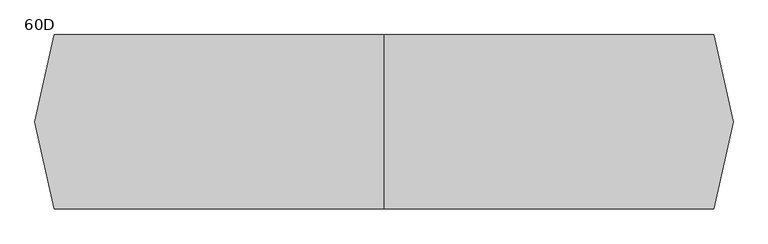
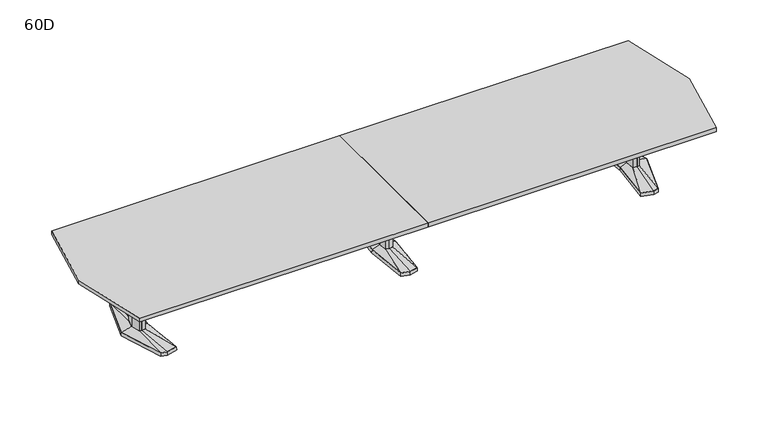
"""IFC4 building model written with IfcOpenShell, lengths in millimetres: furniture geometry, Coalesse_AM_Table_Conference_ETable2_Faceted_20ft_AluminiumBase : 60D."""

from ifc_helpers import new_model, si_unit, frame, origin, place, context, project, spatial, polyline, outline, extrude, faceted_brep, source, transform, mapped, element, save
from ifc_brep_helpers import plane_surface, spline_surface, advanced_brep


def furniture_60d_2c266338(model_context):
    return source(origin(), model_context, "Body", "SolidModel", [
        faceted_brep([(-81.2333791, -433.8053819, 38.1), (0.0, -455.556576, 38.1), (81.2333791, -433.8053819, 38.1), (119.0564774, 0.0, 38.1), (81.2333791, 433.8053819, 38.1), (0.0, 455.556576, 38.1), (-81.2333791, 433.8053819, 38.1), (-119.0564774, 0.0, 38.1), (-82.7182795, -435.0512063, 3.175), (-120.65, 0.0, 3.175), (-82.7182795, 435.0512063, 3.175), (0.0, 457.2, 3.175), (82.7182795, 435.0512063, 3.175), (120.65, 0.0, 3.175), (82.7182795, -435.0512063, 3.175), (0.0, -457.2, 3.175), (0.0, 429.2617927, 3.175), (-77.9676806, 408.3850278, 3.175), (-74.7019821, 382.9646737, 3.175), (0.0, 402.9670094, 3.175), (74.7019821, 382.9646737, 3.175), (77.9676806, 408.3850278, 3.175), (0.0, -429.2617927, 3.175), (77.9676806, -408.3850278, 3.175), (74.7019821, -382.9646737, 3.175), (0.0, -402.9670094, 3.175), (-74.7019821, -382.9646737, 3.175), (-77.9676806, -408.3850278, 3.175), (-71.8574262, 114.6326257, 3.175), (-82.5426076, 0.0, 3.175), (-71.8574262, -114.6326257, 3.175), (0.0, -133.8761372, 3.175), (71.8574262, -114.6326257, 3.175), (82.5426076, 0.0, 3.175), (71.8574262, 114.6326257, 3.175), (0.0, 133.8761372, 3.175), (0.0, 429.2617927, 0.0), (77.9676806, 408.3850278, 0.0), (74.7019821, 382.9646737, 0.0), (0.0, 402.9670094, 0.0), (-74.7019821, 382.9646737, 0.0), (-77.9676806, 408.3850278, 0.0), (0.0, -429.2617927, 0.0), (-77.9676806, -408.3850278, 0.0), (-74.7019821, -382.9646737, 0.0), (0.0, -402.9670094, 0.0), (74.7019821, -382.9646737, 0.0), (77.9676806, -408.3850278, 0.0), (-71.8574262, 114.6326257, 0.0), (0.0, 133.8761372, 0.0), (71.8574262, 114.6326257, 0.0), (82.5426076, 0.0, 0.0), (71.8574262, -114.6326257, 0.0), (0.0, -133.8761372, 0.0), (-71.8574262, -114.6326257, 0.0), (-82.5426076, 0.0, 0.0)], [[[0, 1, 2, 3, 4, 5, 6, 7]], [[8, 9, 10, 11, 12, 13, 14, 15], [16, 17, 18, 19, 20, 21], [22, 23, 24, 25, 26, 27], [28, 29, 30, 31, 32, 33, 34, 35]], [[1, 0, 8, 15]], [[2, 1, 15, 14]], [[3, 2, 14, 13]], [[4, 3, 13, 12]], [[5, 4, 12, 11]], [[6, 5, 11, 10]], [[7, 6, 10, 9]], [[0, 7, 9, 8]], [[36, 37, 38, 39, 40, 41]], [[42, 43, 44, 45, 46, 47]], [[48, 49, 50, 51, 52, 53, 54, 55]], [[36, 41, 17, 16]], [[41, 40, 18, 17]], [[40, 39, 19, 18]], [[39, 38, 20, 19]], [[38, 37, 21, 20]], [[37, 36, 16, 21]], [[42, 47, 23, 22]], [[47, 46, 24, 23]], [[46, 45, 25, 24]], [[45, 44, 26, 25]], [[44, 43, 27, 26]], [[43, 42, 22, 27]], [[48, 55, 29, 28]], [[55, 54, 30, 29]], [[54, 53, 31, 30]], [[53, 52, 32, 31]], [[52, 51, 33, 32]], [[51, 50, 34, 33]], [[50, 49, 35, 34]], [[49, 48, 28, 35]]]),
        faceted_brep([(-36.3832834, 84.6900825, 698.5), (-44.2774487, 0.0, 698.5), (-36.3832834, -84.6900825, 698.5), (0.0, -94.4335728, 698.5), (36.3832834, -84.6900825, 698.5), (44.2774487, 0.0, 698.5), (36.3832834, 84.6900825, 698.5), (0.0, 94.4335728, 698.5), (-36.3832834, 84.6900825, 63.5), (0.0, 94.4335728, 63.5), (36.3832834, 84.6900825, 63.5), (44.2774487, 0.0, 63.5), (36.3832834, -84.6900825, 63.5), (0.0, -94.4335728, 63.5), (-36.3832834, -84.6900825, 63.5), (-44.2774487, 0.0, 63.5)], [[[0, 1, 2, 3, 4, 5, 6, 7]], [[8, 9, 10, 11, 12, 13, 14, 15]], [[1, 0, 8, 15]], [[2, 1, 15, 14]], [[3, 2, 14, 13]], [[4, 3, 13, 12]], [[5, 4, 12, 11]], [[6, 5, 11, 10]], [[7, 6, 10, 9]], [[0, 7, 9, 8]]]),
        advanced_brep(
        [(-36.3832834, 84.6900825, 63.5), (-44.2774487, 0.0, 63.5), (-36.3832834, -84.6900825, 63.5), (0.0, -94.4335728, 63.5), (36.3832834, -84.6900825, 63.5), (44.2774487, 0.0, 63.5), (36.3832834, 84.6900825, 63.5), (0.0, 94.4335728, 63.5), (-81.2333791, 433.8053819, 38.1), (0.0, 455.556576, 38.1), (81.2333791, 433.8053819, 38.1), (119.0564774, 0.0, 38.1), (81.2333791, -433.8053819, 38.1), (0.0, -455.556576, 38.1), (-81.2333791, -433.8053819, 38.1), (-119.0564774, 0.0, 38.1)],
        [
            (0, 1),
            (1, 2),
            (2, 3),
            (3, 4),
            (4, 5),
            (5, 6),
            (6, 7),
            (7, 0),
            (8, 9),
            (9, 10),
            (10, 11),
            (11, 12),
            (12, 13),
            (13, 14),
            (14, 15),
            (15, 8),
            (15, 1),
            (0, 8),
            (14, 2),
            (13, 3),
            (12, 4),
            (11, 5),
            (10, 6),
            (9, 7),
        ],
        [
            plane_surface(frame((0.0, 0.0, 63.5), z_axis=(0.0, 0.0, 1.0000000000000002), x_axis=(-0.9659615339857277, -0.25868574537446, 0.0))),
            plane_surface(frame((0.0, 0.0, 38.1), z_axis=(0.0, 0.0, -1.0000000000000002), x_axis=(-0.9659615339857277, -0.25868574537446, 0.0))),
            spline_surface(1, 1, [[(-81.2333791, 433.8053819, 38.1), (-36.3832834, 84.6900825, 63.5)], [(-119.0564774, 0.0, 38.1), (-44.2774487, 0.0, 63.5)]], [2, 2], [2, 2], [0.0, 1.0], [0.0, 1.0]),
            spline_surface(1, 1, [[(-119.0564774, 0.0, 38.1), (-44.2774487, 0.0, 63.5)], [(-81.2333791, -433.8053819, 38.1), (-36.3832834, -84.6900825, 63.5)]], [2, 2], [2, 2], [0.0, 1.0], [0.0, 1.0]),
            spline_surface(1, 1, [[(-81.2333791, -433.8053819, 38.1), (-36.3832834, -84.6900825, 63.5)], [(0.0, -455.556576, 38.1), (0.0, -94.4335728, 63.5)]], [2, 2], [2, 2], [0.0, 1.0], [0.0, 1.0]),
            spline_surface(1, 1, [[(0.0, -455.556576, 38.1), (0.0, -94.4335728, 63.5)], [(81.2333791, -433.8053819, 38.1), (36.3832834, -84.6900825, 63.5)]], [2, 2], [2, 2], [0.0, 1.0], [0.0, 1.0]),
            spline_surface(1, 1, [[(81.2333791, -433.8053819, 38.1), (36.3832834, -84.6900825, 63.5)], [(119.0564774, 0.0, 38.1), (44.2774487, 0.0, 63.5)]], [2, 2], [2, 2], [0.0, 1.0], [0.0, 1.0]),
            spline_surface(1, 1, [[(119.0564774, 0.0, 38.1), (44.2774487, 0.0, 63.5)], [(81.2333791, 433.8053819, 38.1), (36.3832834, 84.6900825, 63.5)]], [2, 2], [2, 2], [0.0, 1.0], [0.0, 1.0]),
            spline_surface(1, 1, [[(81.2333791, 433.8053819, 38.1), (36.3832834, 84.6900825, 63.5)], [(0.0, 455.556576, 38.1), (0.0, 94.4335728, 63.5)]], [2, 2], [2, 2], [0.0, 1.0], [0.0, 1.0]),
            spline_surface(1, 1, [[(0.0, 455.556576, 38.1), (0.0, 94.4335728, 63.5)], [(-81.2333791, 433.8053819, 38.1), (-36.3832834, 84.6900825, 63.5)]], [2, 2], [2, 2], [0.0, 1.0], [0.0, 1.0]),
        ],
        [
            (0, [[1, 2, 3, 4, 5, 6, 7, 8]]),
            (1, [[9, 10, 11, 12, 13, 14, 15, 16]]),
            (2, [[-16, 17, -1, 18]]),
            (3, [[-15, 19, -2, -17]]),
            (4, [[-14, 20, -3, -19]]),
            (5, [[-13, 21, -4, -20]]),
            (6, [[-12, 22, -5, -21]]),
            (7, [[-11, 23, -6, -22]]),
            (8, [[-10, 24, -7, -23]]),
            (9, [[-9, -18, -8, -24]]),
        ],
    ),
        faceted_brep([(2429.8306835, 455.5848221, 38.1), (2320.2531277, 426.2263816, 38.1), (2361.4163717, 0.0, 38.1), (2320.2531277, -426.2263816, 38.1), (2429.8306835, -455.5848221, 38.1), (2485.9570396, -440.5478297, 38.1), (2623.2684269, 0.0, 38.1), (2485.9570396, 440.5478297, 38.1), (2429.8306754, 457.2283104, 3.175), (2487.2124472, 441.8549756, 3.175), (2624.93125, 0.0, 3.175), (2487.2124472, -441.8549756, 3.175), (2429.8306754, -457.2283104, 3.175), (2318.54375, -427.4118891, 3.175), (2359.8214856, 0.0, 3.175), (2318.54375, 427.4118891, 3.175), (2433.420115, 428.3273875, 3.175), (2328.3718228, 402.1057253, 3.175), (2336.490518, 377.985069, 3.175), (2437.0095466, 401.0699529, 3.175), (2487.5691725, 387.524361, 3.175), (2486.7631061, 414.0360954, 3.175), (2433.420115, -428.3273875, 3.175), (2486.7631061, -414.0360954, 3.175), (2487.5691725, -387.524361, 3.175), (2437.0095466, -401.0699529, 3.175), (2336.490518, -377.985069, 3.175), (2328.3718228, -402.1057253, 3.175), (2560.0153621, 0.0, 3.175), (2527.7459611, 120.4193755, 3.175), (2479.0987222, 133.471665, 3.175), (2399.2180526, 119.4176561, 3.175), (2388.0868466, 0.0, 3.175), (2399.2180526, -119.4176561, 3.175), (2479.0987222, -133.471665, 3.175), (2527.7459611, -120.4193755, 3.175), (2433.420115, 428.3273875, 0.0), (2486.7631061, 414.0360954, 0.0), (2487.5691725, 387.524361, 0.0), (2437.0095466, 401.0699529, 0.0), (2336.490518, 377.985069, 0.0), (2328.3718228, 402.1057253, 0.0), (2433.420115, -428.3273875, 0.0), (2328.3718228, -402.1057253, 0.0), (2336.490518, -377.985069, 0.0), (2437.0095466, -401.0699529, 0.0), (2487.5691725, -387.524361, 0.0), (2486.7631061, -414.0360954, 0.0), (2560.0153621, 0.0, 0.0), (2527.7459611, -120.4193755, 0.0), (2479.0987222, -133.471665, 0.0), (2399.2180526, -119.4176561, 0.0), (2388.0868466, 0.0, 0.0), (2399.2180526, 119.4176561, 0.0), (2479.0987222, 133.471665, 0.0), (2527.7459611, 120.4193755, 0.0)], [[[0, 1, 2, 3, 4, 5, 6, 7]], [[8, 9, 10, 11, 12, 13, 14, 15], [16, 17, 18, 19, 20, 21], [22, 23, 24, 25, 26, 27], [28, 29, 30, 31, 32, 33, 34, 35]], [[7, 9, 8, 0]], [[6, 10, 9, 7]], [[5, 11, 10, 6]], [[4, 12, 11, 5]], [[3, 13, 12, 4]], [[2, 14, 13, 3]], [[1, 15, 14, 2]], [[0, 8, 15, 1]], [[36, 37, 38, 39, 40, 41]], [[42, 43, 44, 45, 46, 47]], [[48, 49, 50, 51, 52, 53, 54, 55]], [[36, 16, 21, 37]], [[37, 21, 20, 38]], [[38, 20, 19, 39]], [[39, 19, 18, 40]], [[40, 18, 17, 41]], [[41, 17, 16, 36]], [[42, 22, 27, 43]], [[43, 27, 26, 44]], [[44, 26, 25, 45]], [[45, 25, 24, 46]], [[46, 24, 23, 47]], [[47, 23, 22, 42]], [[48, 28, 35, 49]], [[49, 35, 34, 50]], [[50, 34, 33, 51]], [[51, 33, 32, 52]], [[52, 32, 31, 53]], [[53, 31, 30, 54]], [[54, 30, 29, 55]], [[55, 29, 28, 48]]]),
        faceted_brep([(2520.5710836, 0.0, 698.5), (2496.6358546, 89.3188359, 698.5), (2479.7824984, 93.8406728, 698.5), (2477.3826511, 94.4845635, 698.5), (2434.455146, 86.9320037, 698.5), (2426.3520056, 0.0, 698.5), (2434.455146, -86.9320037, 698.5), (2477.3826511, -94.4845635, 698.5), (2479.7824984, -93.8406728, 698.5), (2496.6358546, -89.3188359, 698.5), (2520.5710836, 0.0, 63.5), (2496.6358546, -89.3188359, 63.5), (2479.7824984, -93.8406728, 63.5), (2477.3826511, -94.4845635, 63.5), (2434.455146, -86.9320037, 63.5), (2426.3520056, 0.0, 63.5), (2434.455146, 86.9320037, 63.5), (2477.3826511, 94.4845635, 63.5), (2479.7824984, 93.8406728, 63.5), (2496.6358546, 89.3188359, 63.5)], [[[0, 1, 2, 3, 4, 5, 6, 7, 8, 9]], [[10, 11, 12, 13, 14, 15, 16, 17, 18, 19]], [[9, 11, 10, 0]], [[8, 12, 11, 9]], [[7, 13, 12, 8]], [[6, 14, 13, 7]], [[5, 15, 14, 6]], [[4, 16, 15, 5]], [[3, 17, 16, 4]], [[2, 18, 17, 3]], [[1, 19, 18, 2]], [[0, 10, 19, 1]]]),
        advanced_brep(
        [(2477.3826511, 94.4845635, 63.5), (2434.455146, 86.9320037, 63.5), (2426.3520056, 0.0, 63.5), (2434.455146, -86.9320037, 63.5), (2477.3826511, -94.4845635, 63.5), (2496.6358546, -89.3188359, 63.5), (2520.5710836, 0.0, 63.5), (2496.6358546, 89.3188359, 63.5), (2429.8306835, 455.5848221, 38.1), (2485.9570396, 440.5478297, 38.1), (2623.2684269, 0.0, 38.1), (2485.9570396, -440.5478297, 38.1), (2429.8306835, -455.5848221, 38.1), (2320.2531277, -426.2263816, 38.1), (2361.4163717, 0.0, 38.1), (2320.2531277, 426.2263816, 38.1)],
        [
            (0, 1),
            (1, 2),
            (2, 3),
            (3, 4),
            (4, 5),
            (5, 6),
            (6, 7),
            (7, 0),
            (8, 9),
            (9, 10),
            (10, 11),
            (11, 12),
            (12, 13),
            (13, 14),
            (14, 15),
            (15, 8),
            (8, 0),
            (7, 9),
            (6, 10),
            (5, 11),
            (4, 12),
            (3, 13),
            (2, 14),
            (1, 15),
        ],
        [
            plane_surface(frame((2470.4837991, 0.0, 63.5), z_axis=(0.0, 0.0, 1.0), x_axis=(-0.25884244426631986, -0.9659195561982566, 0.0))),
            plane_surface(frame((2432.0958125, 0.0, 38.1), z_axis=(0.0, 0.0, -1.0), x_axis=(-0.25884244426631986, -0.9659195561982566, 0.0))),
            spline_surface(1, 1, [[(2429.8306835, 455.5848221, 38.1), (2485.9570396, 440.5478297, 38.1)], [(2477.3826511, 94.4845635, 63.5), (2496.6358546, 89.3188359, 63.5)]], [2, 2], [2, 2], [0.0, 1.0], [0.0, 1.0]),
            spline_surface(1, 1, [[(2485.9570396, 440.5478297, 38.1), (2623.2684269, 0.0, 38.1)], [(2496.6358546, 89.3188359, 63.5), (2520.5710836, 0.0, 63.5)]], [2, 2], [2, 2], [0.0, 1.0], [0.0, 1.0]),
            spline_surface(1, 1, [[(2623.2684269, 0.0, 38.1), (2485.9570396, -440.5478297, 38.1)], [(2520.5710836, 0.0, 63.5), (2496.6358546, -89.3188359, 63.5)]], [2, 2], [2, 2], [0.0, 1.0], [0.0, 1.0]),
            spline_surface(1, 1, [[(2485.9570396, -440.5478297, 38.1), (2429.8306835, -455.5848221, 38.1)], [(2496.6358546, -89.3188359, 63.5), (2477.3826511, -94.4845635, 63.5)]], [2, 2], [2, 2], [0.0, 1.0], [0.0, 1.0]),
            spline_surface(1, 1, [[(2429.8306835, -455.5848221, 38.1), (2320.2531277, -426.2263816, 38.1)], [(2477.3826511, -94.4845635, 63.5), (2434.455146, -86.9320037, 63.5)]], [2, 2], [2, 2], [0.0, 1.0], [0.0, 1.0]),
            spline_surface(1, 1, [[(2320.2531277, -426.2263816, 38.1), (2361.4163717, 0.0, 38.1)], [(2434.455146, -86.9320037, 63.5), (2426.3520056, 0.0, 63.5)]], [2, 2], [2, 2], [0.0, 1.0], [0.0, 1.0]),
            spline_surface(1, 1, [[(2361.4163717, 0.0, 38.1), (2320.2531277, 426.2263816, 38.1)], [(2426.3520056, 0.0, 63.5), (2434.455146, 86.9320037, 63.5)]], [2, 2], [2, 2], [0.0, 1.0], [0.0, 1.0]),
            spline_surface(1, 1, [[(2320.2531277, 426.2263816, 38.1), (2429.8306835, 455.5848221, 38.1)], [(2434.455146, 86.9320037, 63.5), (2477.3826511, 94.4845635, 63.5)]], [2, 2], [2, 2], [0.0, 1.0], [0.0, 1.0]),
        ],
        [
            (0, [[1, 2, 3, 4, 5, 6, 7, 8]]),
            (1, [[9, 10, 11, 12, 13, 14, 15, 16]]),
            (2, [[17, -8, 18, -9]]),
            (3, [[-18, -7, 19, -10]]),
            (4, [[-19, -6, 20, -11]]),
            (5, [[-20, -5, 21, -12]]),
            (6, [[-21, -4, 22, -13]]),
            (7, [[-22, -3, 23, -14]]),
            (8, [[-23, -2, 24, -15]]),
            (9, [[-24, -1, -17, -16]]),
        ],
    ),
        faceted_brep([(-2429.8306835, 455.5848221, 38.1), (-2485.9570396, 440.5478297, 38.1), (-2623.2684269, 0.0, 38.1), (-2485.9570396, -440.5478297, 38.1), (-2429.8306835, -455.5848221, 38.1), (-2320.2531277, -426.2263816, 38.1), (-2361.4163717, 0.0, 38.1), (-2320.2531277, 426.2263816, 38.1), (-2429.8306754, 457.2283104, 3.175), (-2318.54375, 427.4118891, 3.175), (-2359.8214856, 0.0, 3.175), (-2318.54375, -427.4118891, 3.175), (-2429.8306754, -457.2283104, 3.175), (-2487.2124472, -441.8549756, 3.175), (-2624.93125, 0.0, 3.175), (-2487.2124472, 441.8549756, 3.175), (-2433.420115, 428.3273875, 3.175), (-2486.7631061, 414.0360954, 3.175), (-2487.5691725, 387.524361, 3.175), (-2437.0095466, 401.0699529, 3.175), (-2336.490518, 377.985069, 3.175), (-2328.3718228, 402.1057253, 3.175), (-2433.420115, -428.3273875, 3.175), (-2328.3718228, -402.1057253, 3.175), (-2336.490518, -377.985069, 3.175), (-2437.0095466, -401.0699529, 3.175), (-2487.5691725, -387.524361, 3.175), (-2486.7631061, -414.0360954, 3.175), (-2560.0153621, 0.0, 3.175), (-2527.7459611, -120.4193755, 3.175), (-2479.0987222, -133.471665, 3.175), (-2399.2180526, -119.4176561, 3.175), (-2388.0868466, 0.0, 3.175), (-2399.2180526, 119.4176561, 3.175), (-2479.0987222, 133.471665, 3.175), (-2527.7459611, 120.4193755, 3.175), (-2433.420115, 428.3273875, 0.0), (-2328.3718228, 402.1057253, 0.0), (-2336.490518, 377.985069, 0.0), (-2437.0095466, 401.0699529, 0.0), (-2487.5691725, 387.524361, 0.0), (-2486.7631061, 414.0360954, 0.0), (-2433.420115, -428.3273875, 0.0), (-2486.7631061, -414.0360954, 0.0), (-2487.5691725, -387.524361, 0.0), (-2437.0095466, -401.0699529, 0.0), (-2336.490518, -377.985069, 0.0), (-2328.3718228, -402.1057253, 0.0), (-2560.0153621, 0.0, 0.0), (-2527.7459611, 120.4193755, 0.0), (-2479.0987222, 133.471665, 0.0), (-2399.2180526, 119.4176561, 0.0), (-2388.0868466, 0.0, 0.0), (-2399.2180526, -119.4176561, 0.0), (-2479.0987222, -133.471665, 0.0), (-2527.7459611, -120.4193755, 0.0)], [[[0, 1, 2, 3, 4, 5, 6, 7]], [[8, 9, 10, 11, 12, 13, 14, 15], [16, 17, 18, 19, 20, 21], [22, 23, 24, 25, 26, 27], [28, 29, 30, 31, 32, 33, 34, 35]], [[1, 0, 8, 15]], [[2, 1, 15, 14]], [[3, 2, 14, 13]], [[4, 3, 13, 12]], [[5, 4, 12, 11]], [[6, 5, 11, 10]], [[7, 6, 10, 9]], [[0, 7, 9, 8]], [[36, 37, 38, 39, 40, 41]], [[42, 43, 44, 45, 46, 47]], [[48, 49, 50, 51, 52, 53, 54, 55]], [[36, 41, 17, 16]], [[41, 40, 18, 17]], [[40, 39, 19, 18]], [[39, 38, 20, 19]], [[38, 37, 21, 20]], [[37, 36, 16, 21]], [[42, 47, 23, 22]], [[47, 46, 24, 23]], [[46, 45, 25, 24]], [[45, 44, 26, 25]], [[44, 43, 27, 26]], [[43, 42, 22, 27]], [[48, 55, 29, 28]], [[55, 54, 30, 29]], [[54, 53, 31, 30]], [[53, 52, 32, 31]], [[52, 51, 33, 32]], [[51, 50, 34, 33]], [[50, 49, 35, 34]], [[49, 48, 28, 35]]]),
        faceted_brep([(-2520.5710836, 0.0, 698.5), (-2496.6358546, -89.3188359, 698.5), (-2479.7824984, -93.8406728, 698.5), (-2477.3826511, -94.4845635, 698.5), (-2434.455146, -86.9320037, 698.5), (-2426.3520056, 0.0, 698.5), (-2434.455146, 86.9320037, 698.5), (-2477.3826511, 94.4845635, 698.5), (-2479.7824984, 93.8406728, 698.5), (-2496.6358546, 89.3188359, 698.5), (-2520.5710836, 0.0, 63.5), (-2496.6358546, 89.3188359, 63.5), (-2479.7824984, 93.8406728, 63.5), (-2477.3826511, 94.4845635, 63.5), (-2434.455146, 86.9320037, 63.5), (-2426.3520056, 0.0, 63.5), (-2434.455146, -86.9320037, 63.5), (-2477.3826511, -94.4845635, 63.5), (-2479.7824984, -93.8406728, 63.5), (-2496.6358546, -89.3188359, 63.5)], [[[0, 1, 2, 3, 4, 5, 6, 7, 8, 9]], [[10, 11, 12, 13, 14, 15, 16, 17, 18, 19]], [[1, 0, 10, 19]], [[2, 1, 19, 18]], [[3, 2, 18, 17]], [[4, 3, 17, 16]], [[5, 4, 16, 15]], [[6, 5, 15, 14]], [[7, 6, 14, 13]], [[8, 7, 13, 12]], [[9, 8, 12, 11]], [[0, 9, 11, 10]]]),
        advanced_brep(
        [(-2477.3826511, 94.4845635, 63.5), (-2496.6358546, 89.3188359, 63.5), (-2520.5710836, 0.0, 63.5), (-2496.6358546, -89.3188359, 63.5), (-2477.3826511, -94.4845635, 63.5), (-2434.455146, -86.9320037, 63.5), (-2426.3520056, 0.0, 63.5), (-2434.455146, 86.9320037, 63.5), (-2429.8306835, 455.5848221, 38.1), (-2320.2531277, 426.2263816, 38.1), (-2361.4163717, 0.0, 38.1), (-2320.2531277, -426.2263816, 38.1), (-2429.8306835, -455.5848221, 38.1), (-2485.9570396, -440.5478297, 38.1), (-2623.2684269, 0.0, 38.1), (-2485.9570396, 440.5478297, 38.1)],
        [
            (0, 1),
            (1, 2),
            (2, 3),
            (3, 4),
            (4, 5),
            (5, 6),
            (6, 7),
            (7, 0),
            (8, 9),
            (9, 10),
            (10, 11),
            (11, 12),
            (12, 13),
            (13, 14),
            (14, 15),
            (15, 8),
            (15, 1),
            (0, 8),
            (14, 2),
            (13, 3),
            (12, 4),
            (11, 5),
            (10, 6),
            (9, 7),
        ],
        [
            plane_surface(frame((-2470.4837991, 0.0, 63.5), z_axis=(0.0, 0.0, 1.0), x_axis=(0.25884244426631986, -0.9659195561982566, 0.0))),
            plane_surface(frame((-2432.0958125, 0.0, 38.1), z_axis=(0.0, 0.0, -1.0), x_axis=(0.25884244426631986, -0.9659195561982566, 0.0))),
            spline_surface(1, 1, [[(-2429.8306835, 455.5848221, 38.1), (-2477.3826511, 94.4845635, 63.5)], [(-2485.9570396, 440.5478297, 38.1), (-2496.6358546, 89.3188359, 63.5)]], [2, 2], [2, 2], [0.0, 1.0], [0.0, 1.0]),
            spline_surface(1, 1, [[(-2485.9570396, 440.5478297, 38.1), (-2496.6358546, 89.3188359, 63.5)], [(-2623.2684269, 0.0, 38.1), (-2520.5710836, 0.0, 63.5)]], [2, 2], [2, 2], [0.0, 1.0], [0.0, 1.0]),
            spline_surface(1, 1, [[(-2623.2684269, 0.0, 38.1), (-2520.5710836, 0.0, 63.5)], [(-2485.9570396, -440.5478297, 38.1), (-2496.6358546, -89.3188359, 63.5)]], [2, 2], [2, 2], [0.0, 1.0], [0.0, 1.0]),
            spline_surface(1, 1, [[(-2485.9570396, -440.5478297, 38.1), (-2496.6358546, -89.3188359, 63.5)], [(-2429.8306835, -455.5848221, 38.1), (-2477.3826511, -94.4845635, 63.5)]], [2, 2], [2, 2], [0.0, 1.0], [0.0, 1.0]),
            spline_surface(1, 1, [[(-2429.8306835, -455.5848221, 38.1), (-2477.3826511, -94.4845635, 63.5)], [(-2320.2531277, -426.2263816, 38.1), (-2434.455146, -86.9320037, 63.5)]], [2, 2], [2, 2], [0.0, 1.0], [0.0, 1.0]),
            spline_surface(1, 1, [[(-2320.2531277, -426.2263816, 38.1), (-2434.455146, -86.9320037, 63.5)], [(-2361.4163717, 0.0, 38.1), (-2426.3520056, 0.0, 63.5)]], [2, 2], [2, 2], [0.0, 1.0], [0.0, 1.0]),
            spline_surface(1, 1, [[(-2361.4163717, 0.0, 38.1), (-2426.3520056, 0.0, 63.5)], [(-2320.2531277, 426.2263816, 38.1), (-2434.455146, 86.9320037, 63.5)]], [2, 2], [2, 2], [0.0, 1.0], [0.0, 1.0]),
            spline_surface(1, 1, [[(-2320.2531277, 426.2263816, 38.1), (-2434.455146, 86.9320037, 63.5)], [(-2429.8306835, 455.5848221, 38.1), (-2477.3826511, 94.4845635, 63.5)]], [2, 2], [2, 2], [0.0, 1.0], [0.0, 1.0]),
        ],
        [
            (0, [[1, 2, 3, 4, 5, 6, 7, 8]]),
            (1, [[9, 10, 11, 12, 13, 14, 15, 16]]),
            (2, [[-16, 17, -1, 18]]),
            (3, [[-15, 19, -2, -17]]),
            (4, [[-14, 20, -3, -19]]),
            (5, [[-13, 21, -4, -20]]),
            (6, [[-12, 22, -5, -21]]),
            (7, [[-11, 23, -6, -22]]),
            (8, [[-10, 24, -7, -23]]),
            (9, [[-9, -18, -8, -24]]),
        ],
    ),
        extrude(outline(polyline([(96.8375, 698.5), (103.1875, 698.5), (103.1875, 476.25), (-103.1875, 476.25), (-103.1875, 698.5), (-96.8375, 698.5), (-96.8375, 482.6), (96.8375, 482.6), (96.8375, 698.5)])), frame((44.2774487, 0.0, 0.0), z_axis=(1.0, 0.0, 0.0), x_axis=(0.0, 1.0, 0.0)), (0.0, 0.0, 1.0), 2382.2163013),
        extrude(outline(polyline([(2879.0677242, 762.0), (3048.0, 0.0), (2879.0677242, -762.0), (0.0, -762.0), (0.0, 762.0), (2879.0677242, 762.0)])), frame((0.0, 0.0, 698.5), z_axis=(0.0, 0.0, 1.0), x_axis=(1.0, 0.0, 0.0)), (0.0, 0.0, 1.0), 38.1),
        extrude(outline(polyline([(0.0, -762.0), (-2879.0677242, -762.0), (-3048.0, 0.0), (-2879.0677242, 762.0), (0.0, 762.0), (0.0, -762.0)])), frame((0.0, 0.0, 698.5), z_axis=(0.0, 0.0, 1.0), x_axis=(1.0, 0.0, 0.0)), (0.0, 0.0, 1.0), 38.1),
        extrude(outline(polyline([(96.8375, 698.5), (103.1875, 698.5), (103.1875, 476.25), (-103.1875, 476.25), (-103.1875, 698.5), (-96.8375, 698.5), (-96.8375, 482.6), (96.8375, 482.6), (96.8375, 698.5)])), frame((-2426.49375, 0.0, 0.0), z_axis=(1.0, 0.0, 0.0), x_axis=(0.0, 1.0, 0.0)), (0.0, 0.0, 1.0), 2382.2163013),
    ])


if __name__ == "__main__":
    model = new_model("IFC4")
    model_context = context("Model", 3, world=origin())
    ifc_project = project(units=[si_unit("LENGTHUNIT", "METRE", prefix="MILLI")], contexts=[model_context])
    site = spatial("IfcSite", under=ifc_project)
    building = spatial("IfcBuilding", under=site)
    placement = place(None, origin())
    furniture_60d_shape = furniture_60d_2c266338(model_context)
    element("IfcFurniture", 1, ObjectType="Coalesse_AM_Table_Conference_ETable2_Faceted_20ft_AluminiumBase : 60D", at=placement, inside=building, context=model_context, shape_type="MappedRepresentation", body=[
        mapped(furniture_60d_shape, transform((0.0, 0.0, 0.0), x_axis=(1.0, 0.0, 0.0), y_axis=(0.0, 1.0, 0.0), z_axis=(0.0, 0.0, 1.0))),
    ])
    save(model, "model.ifc")
